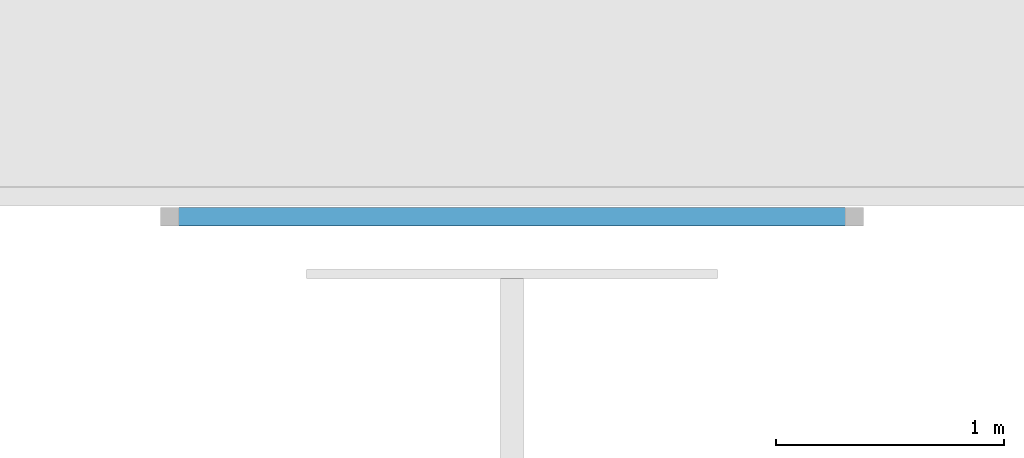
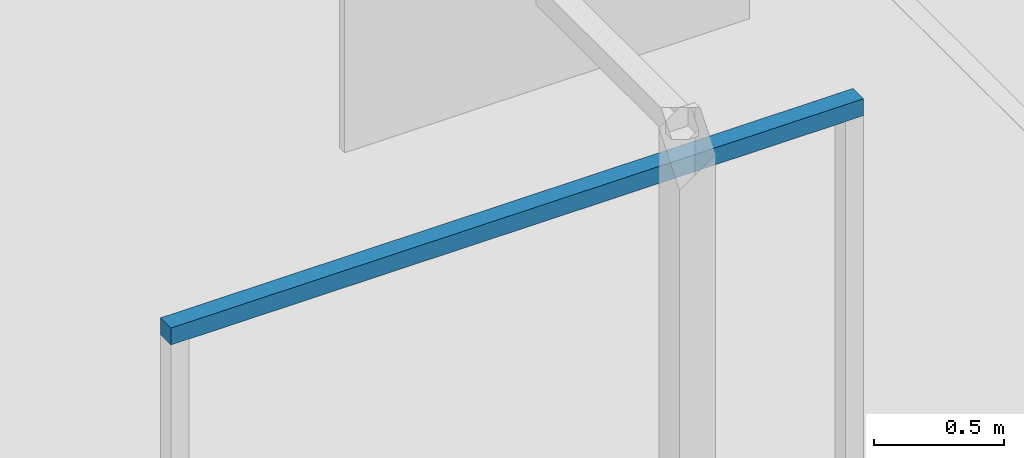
# One storey, part 11 of 90: 1 beam.
"""IFC2X3 building model written with IfcOpenShell, lengths in metres."""

from ifc_helpers import new_model, si_unit, origin, origin_with_axes, place, context, subcontext, project, spatial, faceted_brep, element, save


model = new_model("IFC2X3")

# Units and contexts
model_context = context("Model", 3, precision=1e-05, world=origin_with_axes())
body_context = subcontext(model_context, "Body", "Model", "MODEL_VIEW")
ifc_project = project(units=[si_unit("LENGTHUNIT", "METRE"), si_unit("AREAUNIT", "SQUARE_METRE"), si_unit("VOLUMEUNIT", "CUBIC_METRE"), si_unit("PLANEANGLEUNIT", "RADIAN")], contexts=[model_context])

# Site, building, storey
site_placement = place(None, origin_with_axes())
site = spatial("IfcSite", under=ifc_project, at=site_placement, Name="Predio Los Mangos - Morales, San Martín", CompositionType="ELEMENT")
building_placement = place(site_placement, origin())
building = spatial("IfcBuilding", under=site, at=building_placement, Name="Hogar de Refugio Temporal", CompositionType="ELEMENT")
storey_placement = place(building_placement, origin())
storey = spatial("IfcBuildingStorey", under=building, at=storey_placement, Name="NIVEL 1 (NPT +0.00)", CompositionType="ELEMENT", Elevation=0.0)

# Beam
beam_placement = place(storey_placement, origin())
element("IfcBeam", 1, at=beam_placement, inside=storey, Name="travesano", ObjectType="Viga", context=body_context, shape_type="Brep", body=[
    faceted_brep([(13.51, 94.11, 2.08), (13.51, 94.19, 2.08), (16.59, 94.19, 2.08), (16.59, 94.11, 2.08), (13.51, 94.11, 2.16), (16.59, 94.11, 2.16), (16.59, 94.19, 2.16), (13.51, 94.19, 2.16)], [[[0, 1, 2, 3]], [[4, 5, 6, 7]], [[0, 3, 5, 4]], [[3, 2, 6, 5]], [[2, 1, 7, 6]], [[1, 0, 4, 7]]]),
])

save(model, "model.ifc")
